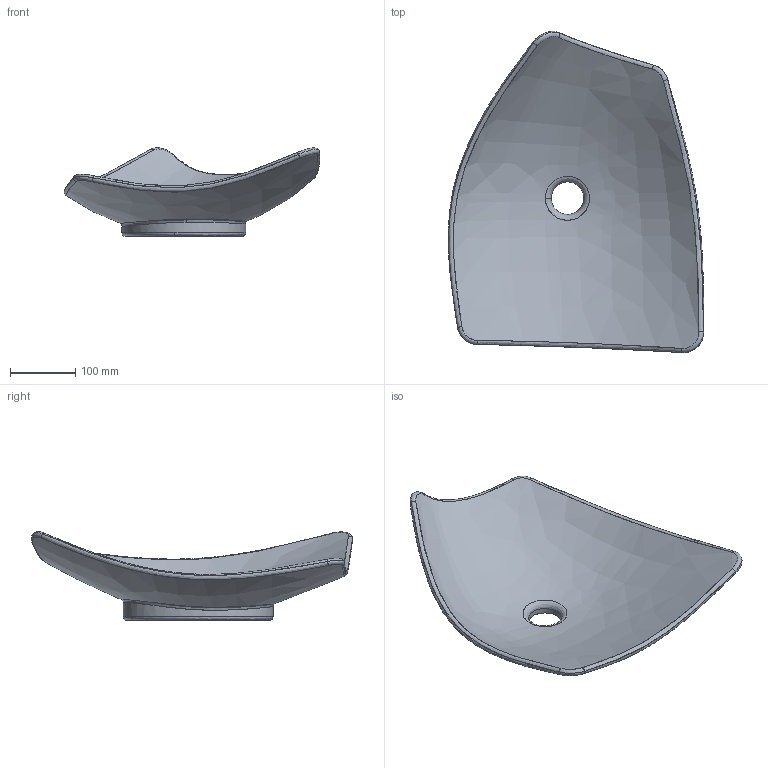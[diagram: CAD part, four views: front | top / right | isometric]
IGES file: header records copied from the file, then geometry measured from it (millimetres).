
Start section: C
Global section: file name: Kong 50.igs; native system:  By UGS Corp.; preprocessor: XPlus GENERIC/IGES 3.0; author: Author; organization: Title; date: 20120323.125450; units: millimetre
Bounding box: 391.63 x 492.69 x 135.68 mm (x, y, z)
Surface area: 383069.6 mm2 (no closed solid volume)
Topology: 0 solids, 0 shells, 30 faces, 142 edges, 142 vertices
Faces by surface type: bspline 30
